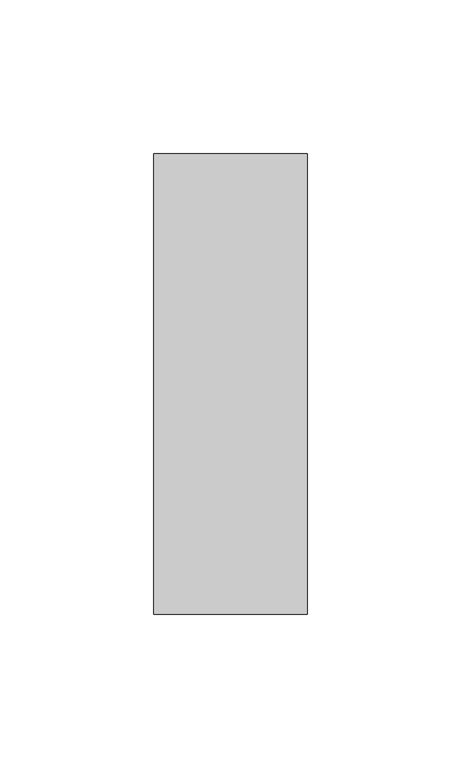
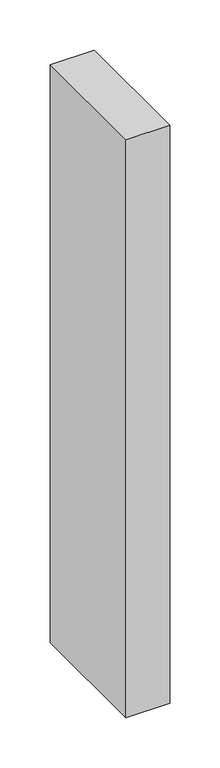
"""IFC4 building model written with IfcOpenShell, lengths in millimetres: member geometry, Прямоугольный импост : 50х150мм."""

from ifc_helpers import new_model, si_unit, frame, origin, place, context, project, spatial, polyline, outline, extrude, source, transform, mapped, element, save


def member_205d2b36(model_context):
    return source(origin(), model_context, "Body", "SweptSolid", [
        extrude(outline(polyline([(0.0, 75.0), (0.0, -75.0), (-50.0, -75.0), (-50.0, 75.0), (0.0, 75.0)])), frame((0.0, 0.0, -700.0), z_axis=(0.0, 0.0, 1.0), x_axis=(1.0, 0.0, 0.0)), (0.0, 0.0, 1.0), 700.0),
    ])


if __name__ == "__main__":
    model = new_model("IFC4")
    model_context = context("Model", 3, world=origin())
    ifc_project = project(units=[si_unit("LENGTHUNIT", "METRE", prefix="MILLI")], contexts=[model_context])
    site = spatial("IfcSite", under=ifc_project)
    building = spatial("IfcBuilding", under=site)
    placement = place(None, origin())
    member_shape = member_205d2b36(model_context)
    element("IfcMember", 1, ObjectType="Прямоугольный импост : 50х150мм", at=placement, inside=building, context=model_context, shape_type="MappedRepresentation", body=[
        mapped(member_shape, transform((0.0, 0.0, 0.0), x_axis=(1.0, 0.0, 0.0), y_axis=(0.0, 1.0, 0.0), z_axis=(0.0, 0.0, 1.0))),
    ])
    save(model, "model.ifc")
